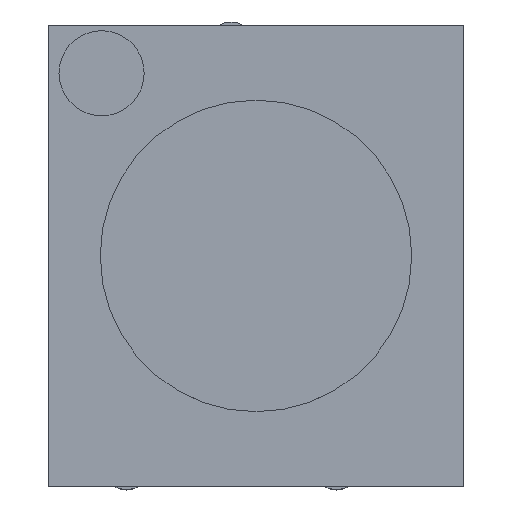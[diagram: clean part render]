
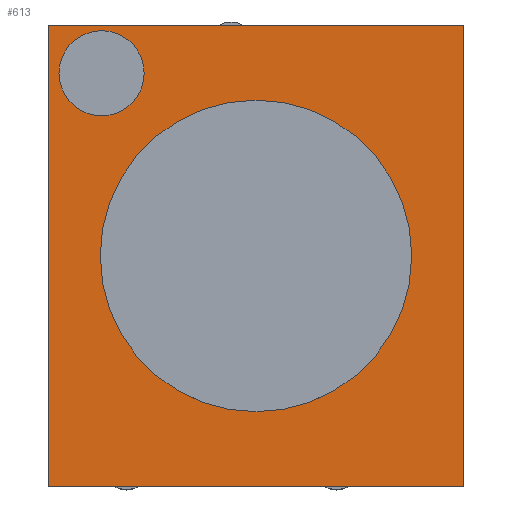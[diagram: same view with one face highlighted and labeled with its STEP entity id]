
A CAD part, top view. The second image highlights one B-rep face of the part: STEP entity #613.
In plain terms, the highlighted planar face has unit normal (0, 0, 1).
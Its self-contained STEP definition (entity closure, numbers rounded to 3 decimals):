
#389=CARTESIAN_POINT('',(8.039,-0.508,5.004));
#388=VERTEX_POINT('',#389);
#399=CARTESIAN_POINT('',(-1.867,-0.508,5.004));
#398=VERTEX_POINT('',#399);
#397=EDGE_CURVE('',#398,#388,#402,.T.);
#402=LINE('',#399,#404);
#404=VECTOR('',#405,9.906);
#405=DIRECTION('',(1.0,0.0,0.0));
#438=CARTESIAN_POINT('',(8.039,10.49,5.004));
#437=VERTEX_POINT('',#438);
#446=EDGE_CURVE('',#388,#437,#451,.T.);
#451=LINE('',#389,#453);
#453=VECTOR('',#454,10.998);
#454=DIRECTION('',(0.0,1.0,0.0));
#487=CARTESIAN_POINT('',(-1.867,10.49,5.004));
#486=VERTEX_POINT('',#487);
#495=EDGE_CURVE('',#437,#486,#500,.T.);
#500=LINE('',#438,#502);
#502=VECTOR('',#503,9.906);
#503=DIRECTION('',(-1.0,0.0,0.0));
#544=EDGE_CURVE('',#486,#398,#549,.T.);
#549=LINE('',#487,#551);
#551=VECTOR('',#552,10.998);
#552=DIRECTION('',(0.0,-1.0,0.0));
#613=ADVANCED_FACE('',(#619),#614,.T.);
#614=PLANE('',#615);
#615=AXIS2_PLACEMENT_3D('',#616,#617,#618);
#616=CARTESIAN_POINT('',(-1.867,-0.508,5.004));
#617=DIRECTION('',(0.0,0.0,1.0));
#618=DIRECTION('',(0.,1.,0.));
#619=FACE_OUTER_BOUND('',#620,.T.);
#620=EDGE_LOOP('',(#621,#631,#641,#651));
#621=ORIENTED_EDGE('',*,*,#397,.T.);
#631=ORIENTED_EDGE('',*,*,#446,.T.);
#641=ORIENTED_EDGE('',*,*,#495,.T.);
#651=ORIENTED_EDGE('',*,*,#544,.T.);
